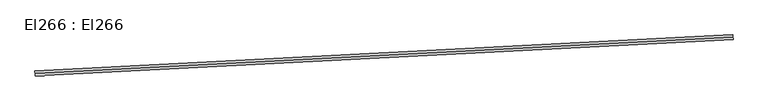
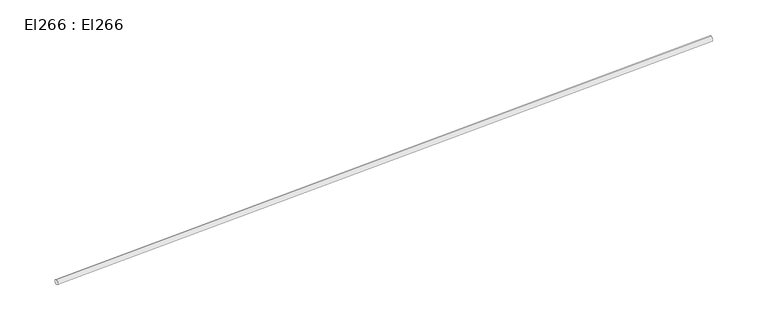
"""IFC4 building model written with IfcOpenShell, lengths in millimetres: cable carrier segment geometry, El266 : El266."""

from ifc_helpers import new_model, si_unit, point, frame, frame_2d, origin, place, context, project, spatial, circle_curve, trimmed, segment, composite_curve, outline, extrude, source, transform, mapped, element, save


def el266_el266_b46046f6(model_context):
    return source(origin(), model_context, "Body", "SweptSolid", [
        extrude(outline(composite_curve([segment(trimmed(circle_curve(frame_2d((0.0, -9.5)), 9.5), [point((0.0, -19.0))], [point((0.0, 0.0))], False, "CARTESIAN"), True, "CONTINUOUS"), segment(trimmed(circle_curve(frame_2d((0.0, -9.5)), 9.5), [point((0.0, 0.0))], [point((0.0, -19.0))], False, "CARTESIAN"), True, "CONTINUOUS")], self_intersect=False)), frame((2621.13, 25185.9484, 2959.5), z_axis=(0.9986569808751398, 0.051809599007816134, 0.0), x_axis=(-0.051809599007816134, 0.9986569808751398, 0.0)), (0.0, 0.0, 1.0), 2603.83),
    ])


if __name__ == "__main__":
    model = new_model("IFC4")
    model_context = context("Model", 3, world=origin())
    ifc_project = project(units=[si_unit("LENGTHUNIT", "METRE", prefix="MILLI")], contexts=[model_context])
    site = spatial("IfcSite", under=ifc_project)
    building = spatial("IfcBuilding", under=site)
    placement = place(None, origin())
    el266_el266_shape = el266_el266_b46046f6(model_context)
    element("IfcCableCarrierSegment", 1, ObjectType="El266 : El266", at=placement, inside=building, context=model_context, shape_type="MappedRepresentation", body=[
        mapped(el266_el266_shape, transform((0.0, 0.0, 0.0), x_axis=(1.0, 0.0, 0.0), y_axis=(0.0, 1.0, 0.0), z_axis=(0.0, 0.0, 1.0))),
    ])
    save(model, "model.ifc")
